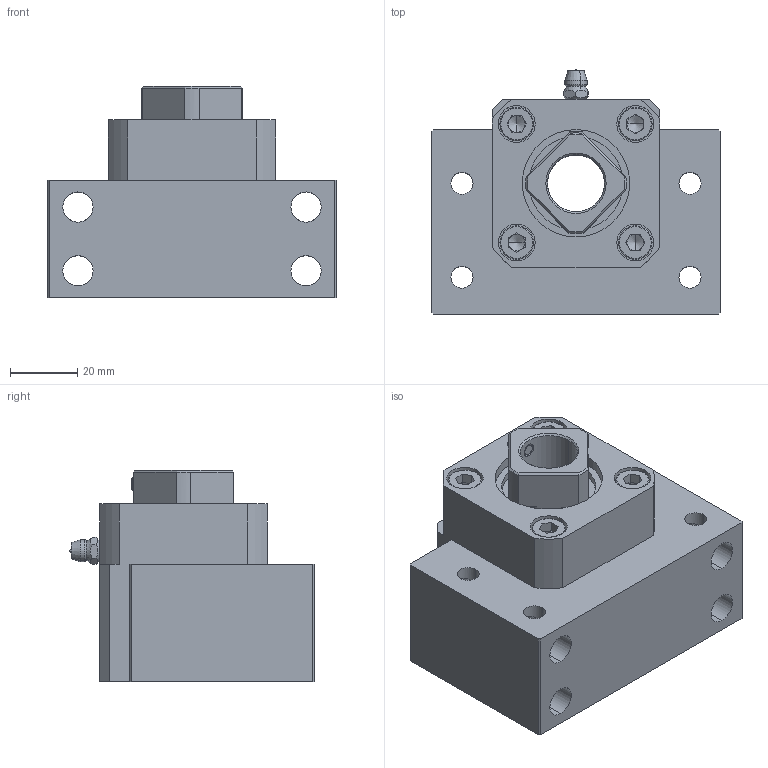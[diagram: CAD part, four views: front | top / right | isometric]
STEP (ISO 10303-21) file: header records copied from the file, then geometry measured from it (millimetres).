
FILE_DESCRIPTION (( 'STEP AP203' ), '1' );
FILE_NAME ('BK17G.STEP', '2018-09-15T01:55:36', ( '' ), ( '' ), 'SwSTEP 2.0', 'SolidWorks 2015', '' );
FILE_SCHEMA (( 'CONFIG_CONTROL_DESIGN' ));
Length unit declared in the file: millimetre
Products named in the file (1): BK17G
Bounding box: 86 x 72.9 x 63 mm (x, y, z)
Volume: 186938.4 mm3; surface area: 49321.3 mm2
Topology: 1 solids, 15 shells, 422 faces, 1039 edges, 639 vertices
Faces by surface type: cylinder 157, plane 145, cone 65, torus 48, bspline 7
Entity records: 13841 total; most frequent: CARTESIAN_POINT 3699, DIRECTION 2197, ORIENTED_EDGE 2038, EDGE_CURVE 1019, AXIS2_PLACEMENT_3D 883, VERTEX_POINT 639, EDGE_LOOP 488, CIRCLE 467
